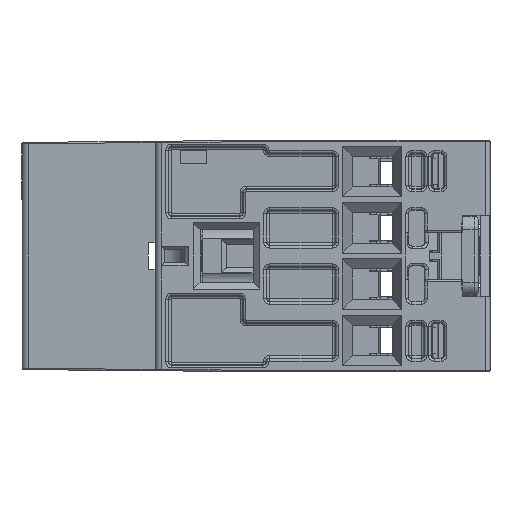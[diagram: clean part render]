
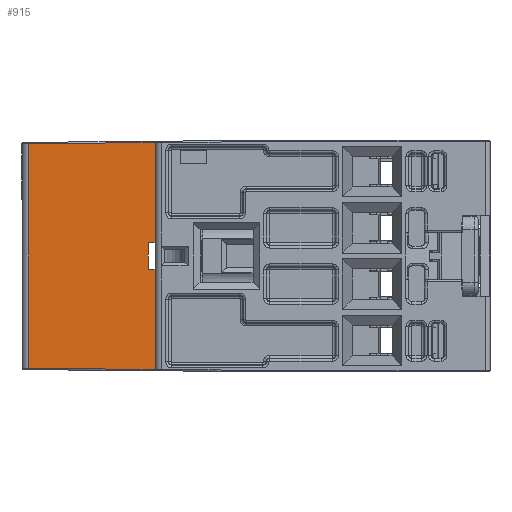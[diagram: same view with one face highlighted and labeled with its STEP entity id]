
A CAD part, left-side view. The second image highlights one B-rep face of the part: STEP entity #915.
In plain terms, the highlighted planar face has unit normal (-1, 0.009, 0).
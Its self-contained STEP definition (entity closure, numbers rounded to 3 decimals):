
#647 = VERTEX_POINT ( 'NONE', #16774 ) ;
#724 = EDGE_CURVE ( 'NONE', #647, #725, #17831, .T. ) ;
#725 = VERTEX_POINT ( 'NONE', #17810 ) ;
#738 = EDGE_CURVE ( 'NONE', #647, #739, #17879, .T. ) ;
#739 = VERTEX_POINT ( 'NONE', #17866 ) ;
#788 = VERTEX_POINT ( 'NONE', #18511 ) ;
#792 = EDGE_CURVE ( 'NONE', #811, #788, #18504, .T. ) ;
#811 = VERTEX_POINT ( 'NONE', #18711 ) ;
#830 = VERTEX_POINT ( 'NONE', #18775 ) ;
#835 = EDGE_CURVE ( 'NONE', #830, #838, #18770, .T. ) ;
#838 = VERTEX_POINT ( 'NONE', #18762 ) ;
#885 = ORIENTED_EDGE ( 'NONE', *, *, #887, .T. ) ;
#887 = EDGE_CURVE ( 'NONE', #725, #888, #18898, .T. ) ;
#888 = VERTEX_POINT ( 'NONE', #18885 ) ;
#890 = ORIENTED_EDGE ( 'NONE', *, *, #891, .T. ) ;
#891 = EDGE_CURVE ( 'NONE', #888, #811, #18875, .T. ) ;
#893 = ORIENTED_EDGE ( 'NONE', *, *, #792, .T. ) ;
#895 = ORIENTED_EDGE ( 'NONE', *, *, #907, .F. ) ;
#907 = EDGE_CURVE ( 'NONE', #838, #788, #18982, .T. ) ;
#915 = ADVANCED_FACE ( 'NONE', ( #18965 ), #19095, .T. ) ;
#917 = EDGE_LOOP ( 'NONE', ( #918, #919, #922, #923, #885, #890, #893, #895 ) ) ;
#918 = ORIENTED_EDGE ( 'NONE', *, *, #835, .F. ) ;
#919 = ORIENTED_EDGE ( 'NONE', *, *, #921, .T. ) ;
#921 = EDGE_CURVE ( 'NONE', #830, #739, #19067, .T. ) ;
#922 = ORIENTED_EDGE ( 'NONE', *, *, #738, .F. ) ;
#923 = ORIENTED_EDGE ( 'NONE', *, *, #724, .T. ) ;
#16774 = CARTESIAN_POINT ( 'NONE',  ( -22.283, 62.909, 16.969 ) ) ;
#17810 = CARTESIAN_POINT ( 'NONE',  ( -22.283, 62.909, -16.969 ) ) ;
#17814 = DIRECTION ( 'NONE',  ( 0., 0., -1. ) ) ;
#17815 = VECTOR ( 'NONE', #17814, 1000. ) ;
#17817 = CARTESIAN_POINT ( 'NONE',  ( -22.283, 62.909, 16.969 ) ) ;
#17831 = LINE ( 'NONE', #17817, #17815 ) ;
#17866 = CARTESIAN_POINT ( 'NONE',  ( -22.45, 43.8, 17.136 ) ) ;
#17870 = DIRECTION ( 'NONE',  ( -0.009, -1., 0.009 ) ) ;
#17873 = VECTOR ( 'NONE', #17870, 1000. ) ;
#17876 = CARTESIAN_POINT ( 'NONE',  ( -22.283, 62.909, 16.969 ) ) ;
#17879 = LINE ( 'NONE', #17876, #17873 ) ;
#18497 = DIRECTION ( 'NONE',  ( 0.009, 1., 0. ) ) ;
#18499 = VECTOR ( 'NONE', #18497, 1000. ) ;
#18502 = CARTESIAN_POINT ( 'NONE',  ( -22.45, 43.8, -2. ) ) ;
#18504 = LINE ( 'NONE', #18502, #18499 ) ;
#18511 = CARTESIAN_POINT ( 'NONE',  ( -22.441, 44.8, -2. ) ) ;
#18711 = CARTESIAN_POINT ( 'NONE',  ( -22.45, 43.8, -2. ) ) ;
#18762 = CARTESIAN_POINT ( 'NONE',  ( -22.441, 44.8, 2. ) ) ;
#18766 = DIRECTION ( 'NONE',  ( 0.009, 1., 0. ) ) ;
#18767 = VECTOR ( 'NONE', #18766, 1000. ) ;
#18769 = CARTESIAN_POINT ( 'NONE',  ( -22.45, 43.8, 2. ) ) ;
#18770 = LINE ( 'NONE', #18769, #18767 ) ;
#18775 = CARTESIAN_POINT ( 'NONE',  ( -22.45, 43.8, 2. ) ) ;
#18871 = DIRECTION ( 'NONE',  ( 0., 0., 1. ) ) ;
#18872 = VECTOR ( 'NONE', #18871, 1000. ) ;
#18874 = CARTESIAN_POINT ( 'NONE',  ( -22.45, 43.8, -17.136 ) ) ;
#18875 = LINE ( 'NONE', #18874, #18872 ) ;
#18885 = CARTESIAN_POINT ( 'NONE',  ( -22.45, 43.8, -17.136 ) ) ;
#18888 = DIRECTION ( 'NONE',  ( -0.009, -1., -0.009 ) ) ;
#18891 = VECTOR ( 'NONE', #18888, 1000. ) ;
#18895 = CARTESIAN_POINT ( 'NONE',  ( -22.283, 62.909, -16.969 ) ) ;
#18898 = LINE ( 'NONE', #18895, #18891 ) ;
#18965 = FACE_OUTER_BOUND ( 'NONE', #917, .T. ) ;
#18977 = DIRECTION ( 'NONE',  ( 0., 0., -1. ) ) ;
#18979 = VECTOR ( 'NONE', #18977, 1000. ) ;
#18981 = CARTESIAN_POINT ( 'NONE',  ( -22.441, 44.8, 2. ) ) ;
#18982 = LINE ( 'NONE', #18981, #18979 ) ;
#19059 = DIRECTION ( 'NONE',  ( 0., 0., 1. ) ) ;
#19061 = VECTOR ( 'NONE', #19059, 1000. ) ;
#19064 = CARTESIAN_POINT ( 'NONE',  ( -22.45, 43.8, 2. ) ) ;
#19067 = LINE ( 'NONE', #19064, #19061 ) ;
#19081 = DIRECTION ( 'NONE',  ( 0., 0., 1. ) ) ;
#19083 = DIRECTION ( 'NONE',  ( -1., 0.009, 0. ) ) ;
#19086 = CARTESIAN_POINT ( 'NONE',  ( -22.45, 43.8, -18.619 ) ) ;
#19088 = AXIS2_PLACEMENT_3D ( 'NONE', #19086, #19083, #19081 ) ;
#19095 = PLANE ( 'NONE',  #19088 ) ;
